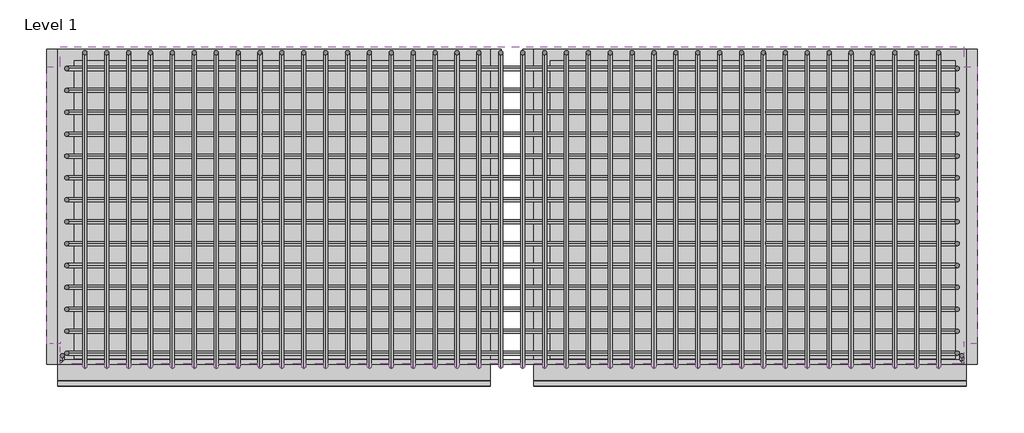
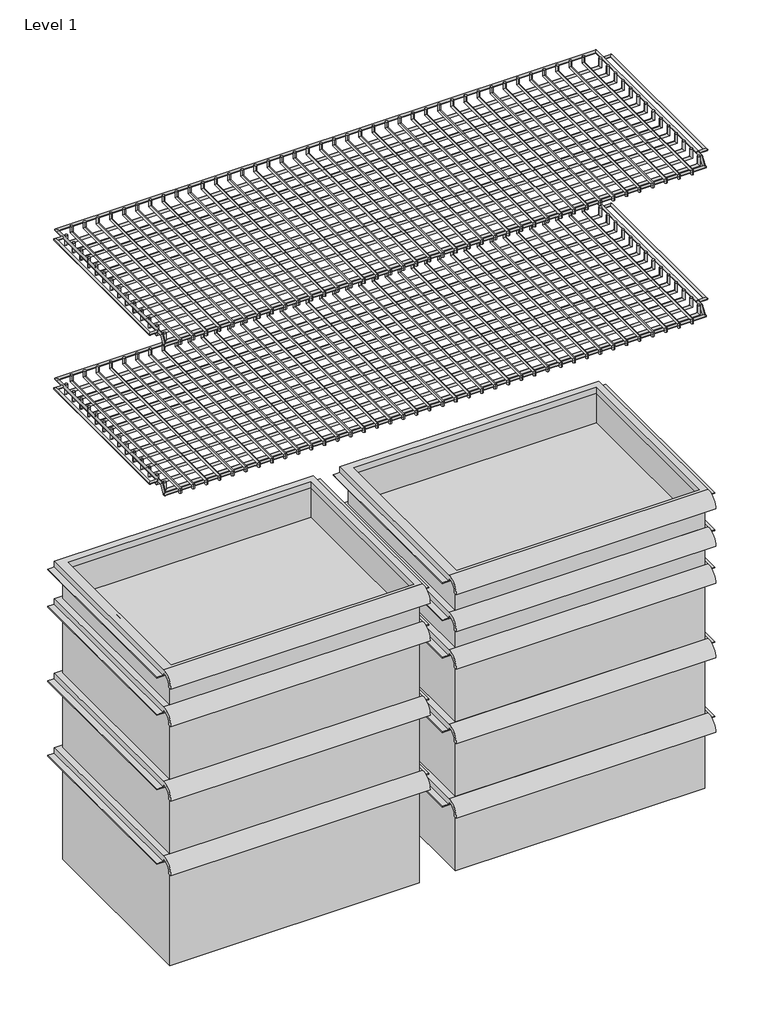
# One storey, incomplete: 11 furniture elements.
"""IFC4 building model written with IfcOpenShell, lengths in millimetres."""

from ifc_helpers import new_model, si_unit, origin, place, context, project, spatial, transform, mapped, element, save
from components import furniture_b08edb2a, furniture_09c434e6, furniture_8ac6b47e, furniture_9c072757, furniture_41c99ade, furniture_e8bd7afb, furniture_f594aa21, furniture_b8eafee2, sr_22_dbl_wide_wire_shelf_730dbcda, sr_22_dbl_wide_wire_shelf_ddc422bb, sr_22_dbl_wide_wire_shelf_5f0abe7a, sr_22_dbl_wide_wire_shelf_4a5e91f4

model = new_model("IFC4")

# Units and contexts
model_context = context("Model", 3, world=origin())
ifc_project = project(units=[si_unit("LENGTHUNIT", "METRE", prefix="MILLI")], contexts=[model_context])

# Site, building, storey
site = spatial("IfcSite", under=ifc_project)
building = spatial("IfcBuilding", under=site)
storey = spatial("IfcBuildingStorey", under=building, Name="Level 1", Elevation=0.0)

# Furniture
placement = place(None, origin())
furniture_shape = furniture_b08edb2a(model_context)
element("IfcFurniture", 1, ObjectType="HermanMiller_Carts_CT501_Drawer : 3\"H x 15\"D x 20\"W", at=placement, inside=storey, context=model_context, shape_type="MappedRepresentation", body=[
    mapped(furniture_shape, transform((916.1749645, -271.1763181, -1034.8987111), x_axis=(1.0, 0.0, 0.0), y_axis=(0.0, 1.0, 0.0), z_axis=(0.0, 0.0, 1.0))),
])
element("IfcFurniture", 2, ObjectType="HermanMiller_Carts_CT501_Drawer : 3\"H x 15\"D x 20\"W", at=placement, inside=storey, context=model_context, shape_type="MappedRepresentation", body=[
    mapped(furniture_shape, transform((363.7249645, -271.1763181, -1034.8987111), x_axis=(1.0, 0.0, 0.0), y_axis=(0.0, 1.0, 0.0), z_axis=(0.0, 0.0, 1.0))),
])
furniture_2_shape = furniture_09c434e6(model_context)
element("IfcFurniture", 3, ObjectType="HermanMiller_Carts_CT501_Drawer : 3\"H x 15\"D x 20\"W", at=placement, inside=storey, context=model_context, shape_type="MappedRepresentation", body=[
    mapped(furniture_2_shape, transform((916.1749645, -271.1763181, -1034.8987111), x_axis=(1.0, 0.0, 0.0), y_axis=(0.0, 1.0, 0.0), z_axis=(0.0, 0.0, 1.0))),
])
furniture_3_shape = furniture_8ac6b47e(model_context)
element("IfcFurniture", 4, ObjectType="HermanMiller_Carts_CT501_Drawer : 6\"H x 15\"D x 20\"W", at=placement, inside=storey, context=model_context, shape_type="MappedRepresentation", body=[
    mapped(furniture_3_shape, transform((363.7249645, -271.1763181, -1034.8987111), x_axis=(1.0, 0.0, 0.0), y_axis=(0.0, 1.0, 0.0), z_axis=(0.0, 0.0, 1.0))),
])
furniture_4_shape = furniture_9c072757(model_context)
element("IfcFurniture", 5, ObjectType="HermanMiller_Carts_CT501_Drawer : 6\"H x 15\"D x 20\"W", at=placement, inside=storey, context=model_context, shape_type="MappedRepresentation", body=[
    mapped(furniture_4_shape, transform((363.7249645, -271.1763181, -1034.8987111), x_axis=(1.0, 0.0, 0.0), y_axis=(0.0, 1.0, 0.0), z_axis=(0.0, 0.0, 1.0))),
])
furniture_5_shape = furniture_41c99ade(model_context)
element("IfcFurniture", 6, ObjectType="HermanMiller_Carts_CT501_Drawer : 6\"H x 15\"D x 20\"W", at=placement, inside=storey, context=model_context, shape_type="MappedRepresentation", body=[
    mapped(furniture_5_shape, transform((916.1749645, -271.1763181, -1034.8987111), x_axis=(1.0, 0.0, 0.0), y_axis=(0.0, 1.0, 0.0), z_axis=(0.0, 0.0, 1.0))),
])
furniture_6_shape = furniture_e8bd7afb(model_context)
element("IfcFurniture", 7, ObjectType="HermanMiller_Carts_CT501_Drawer : 6\"H x 15\"D x 20\"W", at=placement, inside=storey, context=model_context, shape_type="MappedRepresentation", body=[
    mapped(furniture_6_shape, transform((916.1749645, -271.1763181, -1034.8987111), x_axis=(1.0, 0.0, 0.0), y_axis=(0.0, 1.0, 0.0), z_axis=(0.0, 0.0, 1.0))),
])
furniture_7_shape = furniture_f594aa21(model_context)
element("IfcFurniture", 8, ObjectType="HermanMiller_Carts_CT501_Drawer : 6\"H x 15\"D x 20\"W", at=placement, inside=storey, context=model_context, shape_type="MappedRepresentation", body=[
    mapped(furniture_7_shape, transform((916.1749645, -271.1763181, -1034.8987111), x_axis=(1.0, 0.0, 0.0), y_axis=(0.0, 1.0, 0.0), z_axis=(0.0, 0.0, 1.0))),
])
furniture_8_shape = furniture_b8eafee2(model_context)
element("IfcFurniture", 9, ObjectType="HermanMiller_Carts_CT501_Drawer : 9\"H x 15\"D x 20\"W", at=placement, inside=storey, context=model_context, shape_type="MappedRepresentation", body=[
    mapped(furniture_8_shape, transform((363.7249645, -271.1763181, -1034.8987111), x_axis=(1.0, 0.0, 0.0), y_axis=(0.0, 1.0, 0.0), z_axis=(0.0, 0.0, 1.0))),
])
sr_22_dbl_wide_wire_shelf_shape = sr_22_dbl_wide_wire_shelf_730dbcda(model_context)
sr_22_dbl_wide_wire_shelf_2_shape = sr_22_dbl_wide_wire_shelf_ddc422bb(model_context)
sr_22_dbl_wide_wire_shelf_3_shape = sr_22_dbl_wide_wire_shelf_5f0abe7a(model_context)
sr_22_dbl_wide_wire_shelf_4_shape = sr_22_dbl_wide_wire_shelf_4a5e91f4(model_context)
element("IfcFurniture", 10, ObjectType="HermanMiller_Carts_CT521_CartShelf : Sr 22 Dbl-Wide Wire Shelf", at=placement, inside=storey, context=model_context, shape_type="MappedRepresentation", body=[
    mapped(sr_22_dbl_wide_wire_shelf_shape, transform((433.7301161, -234.6638181, -1034.8987111), x_axis=(1.0, 0.0, 0.0), y_axis=(0.0, 1.0, 0.0), z_axis=(0.0, 0.0, 1.0))),
    mapped(sr_22_dbl_wide_wire_shelf_2_shape, transform((433.7301161, -234.6638181, -1034.8987111), x_axis=(1.0, 0.0, 0.0), y_axis=(0.0, 1.0, 0.0), z_axis=(0.0, 0.0, 1.0))),
    mapped(sr_22_dbl_wide_wire_shelf_3_shape, transform((433.7301161, -234.6638181, -1034.8987111), x_axis=(1.0, 0.0, 0.0), y_axis=(0.0, 1.0, 0.0), z_axis=(0.0, 0.0, 1.0))),
    mapped(sr_22_dbl_wide_wire_shelf_4_shape, transform((433.7301161, -234.6638181, -1034.8987111), x_axis=(1.0, 0.0, 0.0), y_axis=(0.0, 1.0, 0.0), z_axis=(0.0, 0.0, 1.0))),
])
element("IfcFurniture", 11, ObjectType="HermanMiller_Carts_CT521_CartShelf : Sr 22 Dbl-Wide Wire Shelf", at=placement, inside=storey, context=model_context, shape_type="MappedRepresentation", body=[
    mapped(sr_22_dbl_wide_wire_shelf_shape, transform((433.7301161, -234.6638181, -730.0987111), x_axis=(1.0, 0.0, 0.0), y_axis=(0.0, 1.0, 0.0), z_axis=(0.0, 0.0, 1.0))),
    mapped(sr_22_dbl_wide_wire_shelf_2_shape, transform((433.7301161, -234.6638181, -730.0987111), x_axis=(1.0, 0.0, 0.0), y_axis=(0.0, 1.0, 0.0), z_axis=(0.0, 0.0, 1.0))),
    mapped(sr_22_dbl_wide_wire_shelf_3_shape, transform((433.7301161, -234.6638181, -730.0987111), x_axis=(1.0, 0.0, 0.0), y_axis=(0.0, 1.0, 0.0), z_axis=(0.0, 0.0, 1.0))),
    mapped(sr_22_dbl_wide_wire_shelf_4_shape, transform((433.7301161, -234.6638181, -730.0987111), x_axis=(1.0, 0.0, 0.0), y_axis=(0.0, 1.0, 0.0), z_axis=(0.0, 0.0, 1.0))),
])

save(model, "model.ifc")
